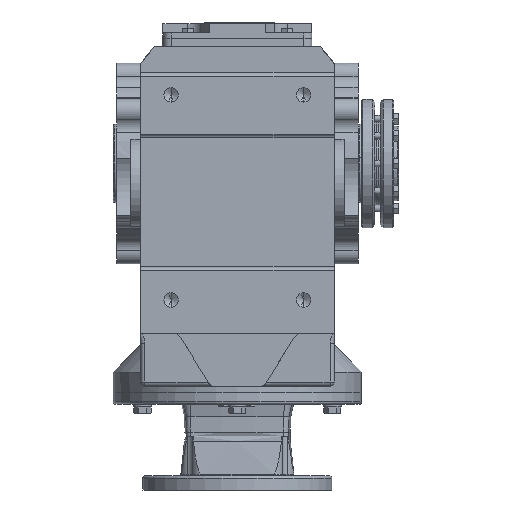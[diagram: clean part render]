
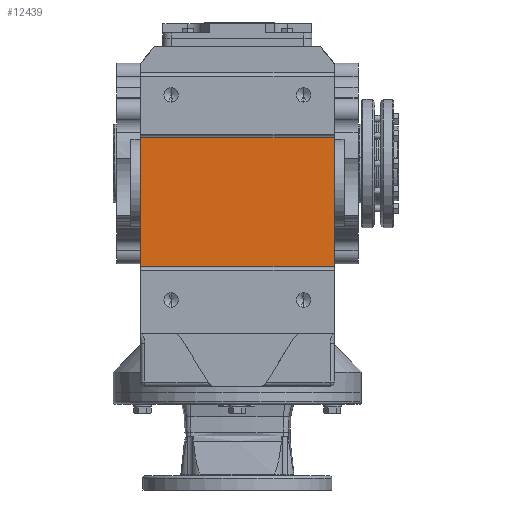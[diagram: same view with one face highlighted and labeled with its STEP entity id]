
A CAD part, front view. The second image highlights one B-rep face of the part: STEP entity #12439.
In plain terms, the highlighted planar face has unit normal (0, -1, 0).
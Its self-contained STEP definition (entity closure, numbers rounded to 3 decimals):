
#3974 = ORIENTED_EDGE ( 'NONE', *, *, #65139, .F. ) ;
#3975 = ORIENTED_EDGE ( 'NONE', *, *, #65141, .F. ) ;
#3976 = ORIENTED_EDGE ( 'NONE', *, *, #65142, .T. ) ;
#3977 = ORIENTED_EDGE ( 'NONE', *, *, #65143, .T. ) ;
#7036 = CARTESIAN_POINT ( 'NONE',  ( -145., -260., 31. ) ) ;
#7048 = PLANE ( 'NONE',  #65709 ) ;
#7054 = DIRECTION ( 'NONE',  ( 0., -1., 0. ) ) ;
#7056 = DIRECTION ( 'NONE',  ( 0., 0., -1. ) ) ;
#12439 = ADVANCED_FACE ( 'NONE', ( #65902 ), #7048, .T. ) ;
#35627 = VERTEX_POINT ( 'NONE', #46420 ) ;
#35638 = VERTEX_POINT ( 'NONE', #46431 ) ;
#35641 = VERTEX_POINT ( 'NONE', #46434 ) ;
#35643 = VERTEX_POINT ( 'NONE', #46436 ) ;
#44937 = DIRECTION ( 'NONE',  ( 1., 0., 0. ) ) ;
#44943 = CARTESIAN_POINT ( 'NONE',  ( -145., -260., 31. ) ) ;
#44946 = DIRECTION ( 'NONE',  ( 0., 0., 1. ) ) ;
#44950 = CARTESIAN_POINT ( 'NONE',  ( -117., -260., 31. ) ) ;
#44952 = CARTESIAN_POINT ( 'NONE',  ( 117., -260., 31. ) ) ;
#44956 = CARTESIAN_POINT ( 'NONE',  ( -145., -260., -125. ) ) ;
#44958 = DIRECTION ( 'NONE',  ( 1., 0., 0. ) ) ;
#44959 = DIRECTION ( 'NONE',  ( 0., 0., 1. ) ) ;
#46420 = CARTESIAN_POINT ( 'NONE',  ( -117., -260., 31. ) ) ;
#46431 = CARTESIAN_POINT ( 'NONE',  ( -117., -260., -125. ) ) ;
#46434 = CARTESIAN_POINT ( 'NONE',  ( 117., -260., 31. ) ) ;
#46436 = CARTESIAN_POINT ( 'NONE',  ( 117., -260., -125. ) ) ;
#51225 = LINE ( 'NONE', #44943, #51227 ) ;
#51226 = LINE ( 'NONE', #44952, #51236 ) ;
#51227 = VECTOR ( 'NONE', #44937, 1000. ) ;
#51228 = LINE ( 'NONE', #44950, #51232 ) ;
#51230 = LINE ( 'NONE', #44956, #51234 ) ;
#51232 = VECTOR ( 'NONE', #44946, 1000. ) ;
#51234 = VECTOR ( 'NONE', #44958, 1000. ) ;
#51236 = VECTOR ( 'NONE', #44959, 1000. ) ;
#58615 = EDGE_LOOP ( 'NONE', ( #3974, #3975, #3976, #3977 ) ) ;
#65139 = EDGE_CURVE ( 'NONE', #35627, #35641, #51225, .T. ) ;
#65141 = EDGE_CURVE ( 'NONE', #35638, #35627, #51228, .T. ) ;
#65142 = EDGE_CURVE ( 'NONE', #35638, #35643, #51230, .T. ) ;
#65143 = EDGE_CURVE ( 'NONE', #35643, #35641, #51226, .T. ) ;
#65709 = AXIS2_PLACEMENT_3D ( 'NONE', #7036, #7054, #7056 ) ;
#65902 = FACE_OUTER_BOUND ( 'NONE', #58615, .T. ) ;
